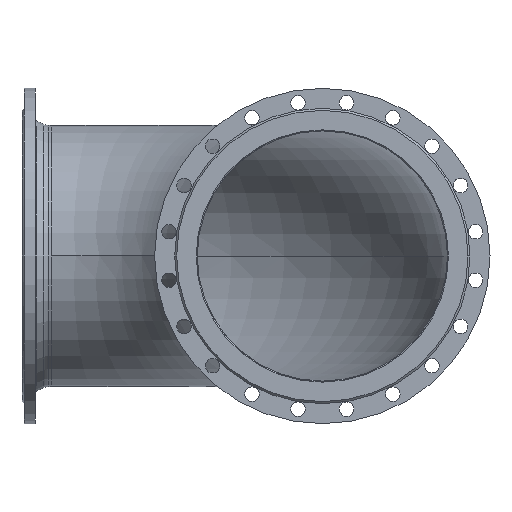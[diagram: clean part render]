
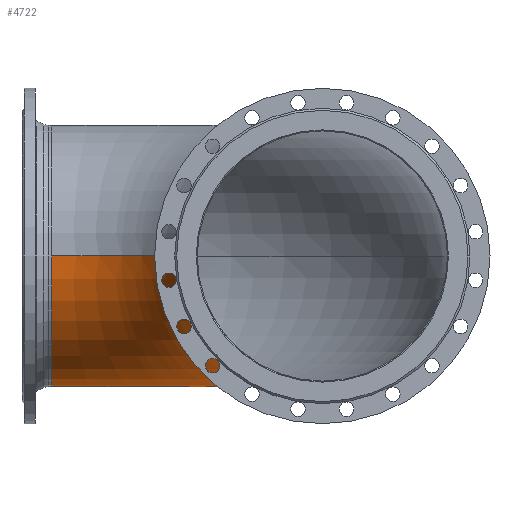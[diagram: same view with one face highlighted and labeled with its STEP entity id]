
A CAD part, front view. The second image highlights one B-rep face of the part: STEP entity #4722.
In plain terms, the highlighted toroidal (fillet/blend) face has major radius 541 mm and minor radius 261 mm.
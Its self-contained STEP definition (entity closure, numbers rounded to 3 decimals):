
#5 = AXIS2_PLACEMENT_3D ( 'NONE', #3006, #4101, #3164 ) ;
#67 = EDGE_LOOP ( 'NONE', ( #5168, #4453, #229, #3729, #2257, #3121 ) ) ;
#229 = ORIENTED_EDGE ( 'NONE', *, *, #524, .F. ) ;
#395 = AXIS2_PLACEMENT_3D ( 'NONE', #4961, #2013, #2524 ) ;
#504 = DIRECTION ( 'NONE',  ( 0., 0., -1. ) ) ;
#524 = EDGE_CURVE ( 'Defeatured_0_2+Defeatured_0_0+Defeatured_0_0+Defeatured_0_0', #4144, #5417, #2705, .T. ) ;
#575 = AXIS2_PLACEMENT_3D ( 'NONE', #4808, #887, #504 ) ;
#655 = EDGE_CURVE ( 'Defeatured_0_2+Defeatured_0_0+Defeatured_0_0+Defeatured_0_0', #3999, #4144, #2910, .T. ) ;
#887 = DIRECTION ( 'NONE',  ( 0., -1., 0. ) ) ;
#982 = AXIS2_PLACEMENT_3D ( 'NONE', #4041, #5991, #2533 ) ;
#1502 = CIRCLE ( 'NONE', #395, 802. ) ;
#1804 = DIRECTION ( 'NONE',  ( 0., -1., 0. ) ) ;
#1864 = EDGE_CURVE ( 'Defeatured_0_0+Defeatured_0_1+Defeatured_0_1+Defeatured_0_1', #3995, #3082, #5129, .T. ) ;
#2013 = DIRECTION ( 'NONE',  ( 0., 0., -1. ) ) ;
#2039 = DIRECTION ( 'NONE',  ( 1., 0., 0. ) ) ;
#2257 = ORIENTED_EDGE ( 'NONE', *, *, #2952, .F. ) ;
#2468 = CARTESIAN_POINT ( 'NONE',  ( 59., 0., -261. ) ) ;
#2524 = DIRECTION ( 'NONE',  ( -1., 0., 0. ) ) ;
#2533 = DIRECTION ( 'NONE',  ( 0., 0., -1. ) ) ;
#2705 = CIRCLE ( 'NONE', #3003, 261. ) ;
#2723 = CARTESIAN_POINT ( 'NONE',  ( 59., 261., 0. ) ) ;
#2840 = TOROIDAL_SURFACE ( 'NONE', #5, 541., 261. ) ;
#2910 = CIRCLE ( 'NONE', #575, 261. ) ;
#2935 = CARTESIAN_POINT ( 'NONE',  ( 861., -541., 0. ) ) ;
#2952 = EDGE_CURVE ( 'NONE', #5569, #3999, #3917, .T. ) ;
#3000 = DIRECTION ( 'NONE',  ( 0., 0., -1. ) ) ;
#3003 = AXIS2_PLACEMENT_3D ( 'NONE', #4171, #1804, #5543 ) ;
#3006 = CARTESIAN_POINT ( 'NONE',  ( 59., -541., 0. ) ) ;
#3082 = VERTEX_POINT ( 'NONE', #2723 ) ;
#3121 = ORIENTED_EDGE ( 'NONE', *, *, #3776, .T. ) ;
#3124 = CIRCLE ( 'NONE', #4426, 261. ) ;
#3164 = DIRECTION ( 'NONE',  ( -1., 0., 0. ) ) ;
#3338 = EDGE_CURVE ( 'NONE', #3082, #5417, #1502, .T. ) ;
#3573 = FACE_OUTER_BOUND ( 'NONE', #67, .T. ) ;
#3729 = ORIENTED_EDGE ( 'NONE', *, *, #655, .F. ) ;
#3776 = EDGE_CURVE ( 'Defeatured_0_0+Defeatured_0_1+Defeatured_0_1+Defeatured_0_1', #5569, #3995, #3124, .T. ) ;
#3917 = CIRCLE ( 'NONE', #5848, 280. ) ;
#3951 = CARTESIAN_POINT ( 'NONE',  ( 339., -541., 0. ) ) ;
#3995 = VERTEX_POINT ( 'NONE', #2468 ) ;
#3999 = VERTEX_POINT ( 'NONE', #3951 ) ;
#4041 = CARTESIAN_POINT ( 'NONE',  ( 59., 0., 0. ) ) ;
#4101 = DIRECTION ( 'NONE',  ( 0., 0., -1. ) ) ;
#4144 = VERTEX_POINT ( 'NONE', #5506 ) ;
#4171 = CARTESIAN_POINT ( 'NONE',  ( 600., -541., 0. ) ) ;
#4426 = AXIS2_PLACEMENT_3D ( 'NONE', #5371, #2039, #5909 ) ;
#4453 = ORIENTED_EDGE ( 'NONE', *, *, #3338, .T. ) ;
#4722 = ADVANCED_FACE ( 'Defeatured_0_0', ( #3573 ), #2840, .T. ) ;
#4808 = CARTESIAN_POINT ( 'NONE',  ( 600., -541., 0. ) ) ;
#4932 = DIRECTION ( 'NONE',  ( -1., 0., 0. ) ) ;
#4961 = CARTESIAN_POINT ( 'NONE',  ( 59., -541., 0. ) ) ;
#5114 = CARTESIAN_POINT ( 'NONE',  ( 59., -261., 0. ) ) ;
#5129 = CIRCLE ( 'NONE', #982, 261. ) ;
#5168 = ORIENTED_EDGE ( 'NONE', *, *, #1864, .T. ) ;
#5371 = CARTESIAN_POINT ( 'NONE',  ( 59., 0., 0. ) ) ;
#5417 = VERTEX_POINT ( 'NONE', #2935 ) ;
#5506 = CARTESIAN_POINT ( 'NONE',  ( 600., -541., -261. ) ) ;
#5543 = DIRECTION ( 'NONE',  ( 0., 0., -1. ) ) ;
#5569 = VERTEX_POINT ( 'NONE', #5114 ) ;
#5848 = AXIS2_PLACEMENT_3D ( 'NONE', #5920, #3000, #4932 ) ;
#5909 = DIRECTION ( 'NONE',  ( 0., 0., -1. ) ) ;
#5920 = CARTESIAN_POINT ( 'NONE',  ( 59., -541., 0. ) ) ;
#5991 = DIRECTION ( 'NONE',  ( 1., 0., 0. ) ) ;
